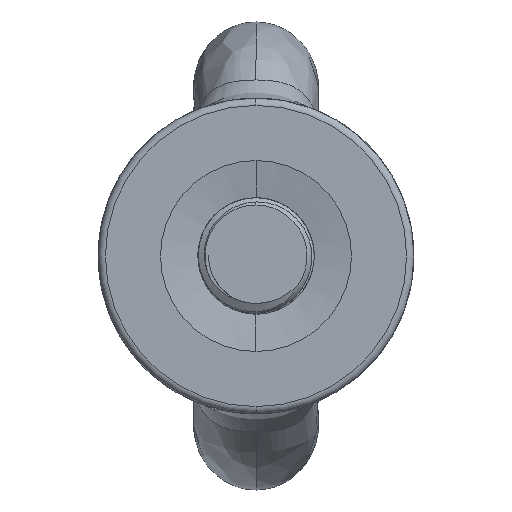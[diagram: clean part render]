
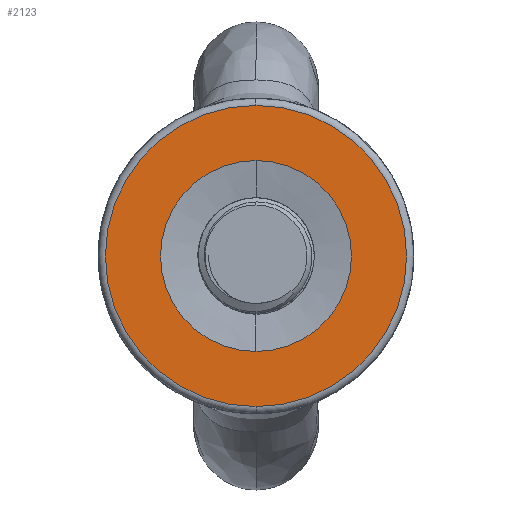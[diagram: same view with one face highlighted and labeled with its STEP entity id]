
A CAD part, left-side view. The second image highlights one B-rep face of the part: STEP entity #2123.
In plain terms, the highlighted planar face has unit normal (-1, 0, 0).
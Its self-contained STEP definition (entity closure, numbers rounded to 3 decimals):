
#416 = ORIENTED_EDGE ( 'NONE', *, *, #1159, .T. ) ;
#449 = ORIENTED_EDGE ( 'NONE', *, *, #1184, .F. ) ;
#451 = ORIENTED_EDGE ( 'NONE', *, *, #2906, .T. ) ;
#453 = ORIENTED_EDGE ( 'NONE', *, *, #2907, .F. ) ;
#610 = CARTESIAN_POINT ( 'NONE',  ( 0., 0., 0. ) ) ;
#611 = DIRECTION ( 'NONE',  ( -1., 0., 0. ) ) ;
#612 = DIRECTION ( 'NONE',  ( 0., 0., -1. ) ) ;
#916 = VERTEX_POINT ( 'NONE', #1248 ) ;
#938 = VERTEX_POINT ( 'NONE', #1864 ) ;
#1035 = VERTEX_POINT ( 'NONE', #1789 ) ;
#1043 = VERTEX_POINT ( 'NONE', #1771 ) ;
#1159 = EDGE_CURVE ( 'NONE', #938, #916, #1276, .T. ) ;
#1184 = EDGE_CURVE ( 'NONE', #1035, #1043, #1294, .T. ) ;
#1248 = CARTESIAN_POINT ( 'NONE',  ( 0., 0., -10.25 ) ) ;
#1276 = CIRCLE ( 'NONE', #2939, 10.25 ) ;
#1294 = CIRCLE ( 'NONE', #2951, 6.5 ) ;
#1413 = FACE_OUTER_BOUND ( 'NONE', #1998, .T. ) ;
#1420 = FACE_BOUND ( 'NONE', #1985, .T. ) ;
#1500 = CARTESIAN_POINT ( 'NONE',  ( 0., 0., 0. ) ) ;
#1501 = DIRECTION ( 'NONE',  ( -1., 0., 0. ) ) ;
#1502 = DIRECTION ( 'NONE',  ( 0., 0., 1. ) ) ;
#1771 = CARTESIAN_POINT ( 'NONE',  ( 0., 0., 6.5 ) ) ;
#1789 = CARTESIAN_POINT ( 'NONE',  ( 0., 0., -6.5 ) ) ;
#1864 = CARTESIAN_POINT ( 'NONE',  ( 0., 0., 10.25 ) ) ;
#1985 = EDGE_LOOP ( 'NONE', ( #453, #449 ) ) ;
#1998 = EDGE_LOOP ( 'NONE', ( #451, #416 ) ) ;
#2123 = ADVANCED_FACE ( 'NONE', ( #1413, #1420 ), #3356, .F. ) ;
#2906 = EDGE_CURVE ( 'NONE', #916, #938, #5526, .T. ) ;
#2907 = EDGE_CURVE ( 'NONE', #1043, #1035, #5527, .T. ) ;
#2939 = AXIS2_PLACEMENT_3D ( 'NONE', #610, #611, #612 ) ;
#2951 = AXIS2_PLACEMENT_3D ( 'NONE', #1500, #1501, #1502 ) ;
#3094 = AXIS2_PLACEMENT_3D ( 'NONE', #3355, #3361, #3362 ) ;
#3355 = CARTESIAN_POINT ( 'NONE',  ( 0., 0., -6.5 ) ) ;
#3356 = PLANE ( 'NONE',  #3094 ) ;
#3361 = DIRECTION ( 'NONE',  ( 1., 0., 0. ) ) ;
#3362 = DIRECTION ( 'NONE',  ( 0., 0., -1. ) ) ;
#5238 = CARTESIAN_POINT ( 'NONE',  ( 0., 0., 0. ) ) ;
#5239 = DIRECTION ( 'NONE',  ( -1., 0., 0. ) ) ;
#5240 = DIRECTION ( 'NONE',  ( 0., 0., -1. ) ) ;
#5243 = CARTESIAN_POINT ( 'NONE',  ( 0., 0., 0. ) ) ;
#5244 = DIRECTION ( 'NONE',  ( -1., 0., 0. ) ) ;
#5245 = DIRECTION ( 'NONE',  ( 0., 0., 1. ) ) ;
#5491 = AXIS2_PLACEMENT_3D ( 'NONE', #5238, #5239, #5240 ) ;
#5492 = AXIS2_PLACEMENT_3D ( 'NONE', #5243, #5244, #5245 ) ;
#5526 = CIRCLE ( 'NONE', #5491, 10.25 ) ;
#5527 = CIRCLE ( 'NONE', #5492, 6.5 ) ;
